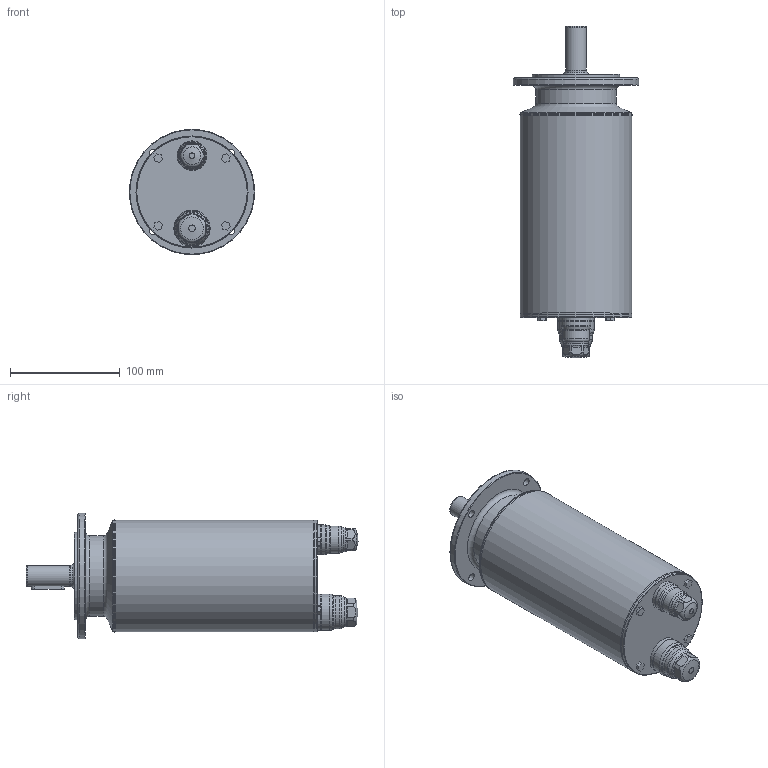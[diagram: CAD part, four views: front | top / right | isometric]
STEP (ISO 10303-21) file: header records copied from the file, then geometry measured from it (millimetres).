
FILE_DESCRIPTION((''),'2;1');
FILE_NAME('C:\Autodesk Vault\AUTODESK_VAULT\CAD\000-FERTIG Motors\EM-Motoren\EM085\_Gesamtbaugruppen\Step\HD\10.12.2012\AM8842-xx01-xxx_14.02.2013.stp','2013-02-14T09:49:04',('kathrinV'),(''),'Autodesk Inventor 2013','Autodesk Inventor 2013','');
FILE_SCHEMA(('AUTOMOTIVE_DESIGN { 1 0 10303 214 1 1 1 1 }'));
Length unit declared in the file: millimetre
Products named in the file (6): EM085-HD_VM; EM085-HD_VM-00; EM085-MB1-R-HD-VM; M16-HD-VM; M20-HD-VM; DIN 6885-A6x6x30
Assembly tree (5 placements, depth 3):
  EM085-HD_VM
    EM085-HD_VM-00
      EM085-MB1-R-HD-VM
      M16-HD-VM
      M20-HD-VM
    DIN 6885-A6x6x30
Bounding box: 114 x 301.87 x 114 mm (x, y, z)
Volume: 1764966.9 mm3; surface area: 106733.1 mm2
Topology: 4 solids, 4 shells, 145 faces, 350 edges, 224 vertices
Faces by surface type: plane 63, cylinder 37, torus 23, cone 16, bspline 6
Full cylindrical faces by diameter (mm): 5 x1, 6 x1, 7 x4, 16 x1, 19 x1, 20 x2, 22 x1, 24.5 x1, 27 x2, 30 x1, 33 x2, 73 x1, 80 x1, 101.4 x1, 101.6 x2, 114 x1
Entity records: 5072 total; most frequent: CARTESIAN_POINT 1740, DIRECTION 632, ORIENTED_EDGE 556, EDGE_CURVE 278, AXIS2_PLACEMENT_3D 258, EDGE_LOOP 226, VERTEX_POINT 214, FACE_OUTER_BOUND 145
